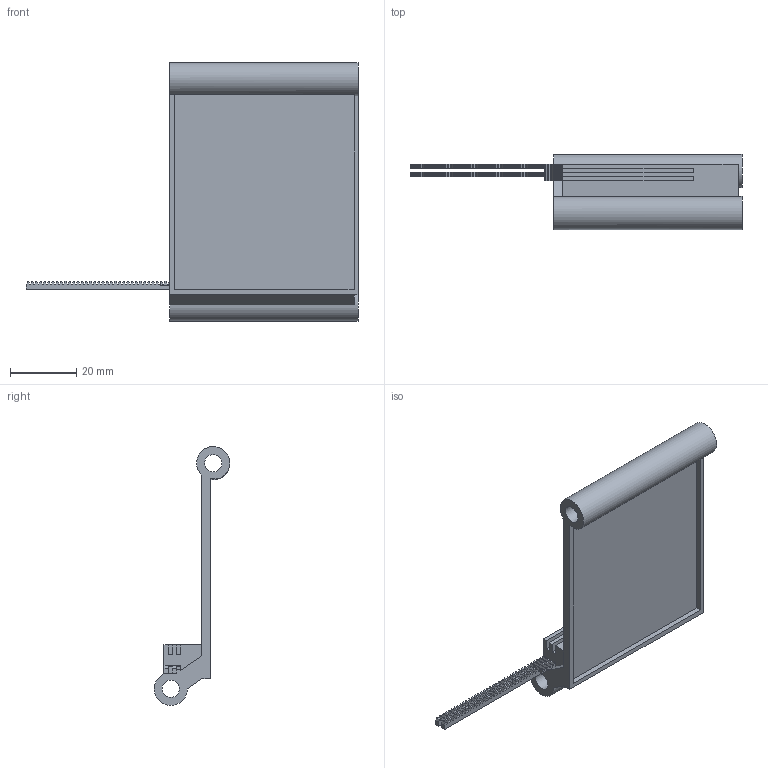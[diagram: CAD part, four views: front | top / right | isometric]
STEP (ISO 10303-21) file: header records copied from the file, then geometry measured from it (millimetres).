
FILE_DESCRIPTION(/* description */ ('STEP AP242 Edition 2','CAx-IF Rec.Pracs.---Representation and Presentation of Product Manufacturing Information (PMI)---4.0---2014-10-13','CAx-IF Rec.Pracs.---3D Tessellated Geometry---0.4---2014-09-14','2;1','CAx-IF Rec.Pracs.---User Defined Attributes---1.5---2016-08-15'),/* implementation_level */ '2;1');
FILE_NAME(/* name */ 'main - Part 19 - right display slider',/* time_stamp */ '2026-11-08T20:03:44Z',/* author */ (''),/* organization */ (''),/* preprocessor_version */ 'ST-DEVELOPER v20',/* originating_system */ 'ONSHAPE BY PTC INC, 1.223',/* authorisation */ ' ');
FILE_SCHEMA (('AP242_MANAGED_MODEL_BASED_3D_ENGINEERING_MIM_LF { 1 0 10303 442 3 1 4 }'));
Length unit declared in the file: metre
Products named in the file (1): Part 19 - right display slider
Bounding box: 100.19 x 22.79 x 78.08 mm (x, y, z)
Volume: 16857.6 mm3; surface area: 15127.3 mm2
Topology: 1 solids, 1 shells, 324 faces, 967 edges, 644 vertices
Faces by surface type: plane 320, cylinder 4
Full cylindrical faces by diameter (mm): 5.25 x2, 10 x1
Entity records: 10675 total; most frequent: CARTESIAN_POINT 1931, ORIENTED_EDGE 1926, DIRECTION 1623, EDGE_CURVE 963, LINE 953, VECTOR 953, VERTEX_POINT 643, AXIS2_PLACEMENT_3D 335
